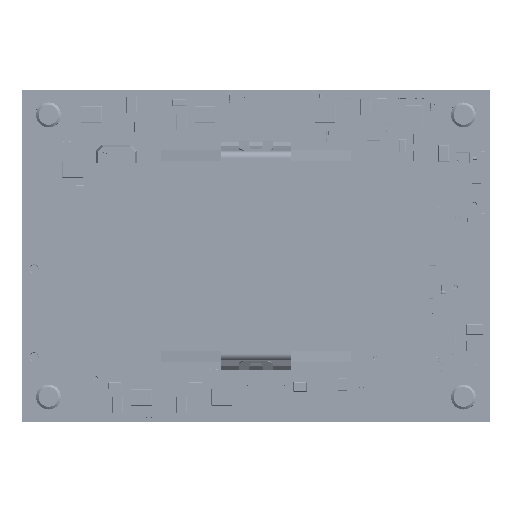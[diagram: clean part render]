
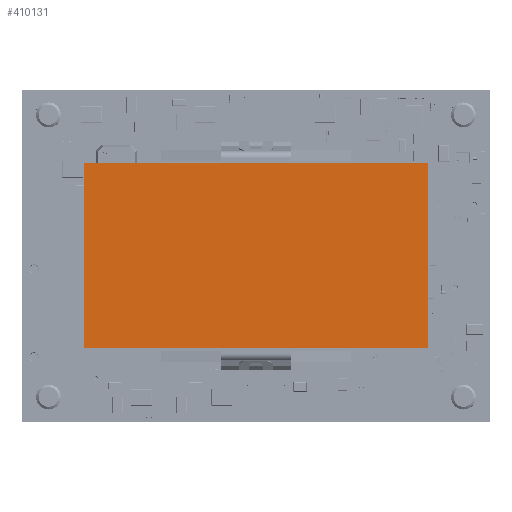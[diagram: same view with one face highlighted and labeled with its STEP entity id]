
A CAD part, top view. The second image highlights one B-rep face of the part: STEP entity #410131.
In plain terms, the highlighted planar face has unit normal (0, 0, 1) as drawn and (0, 1, 0) by its records, which use the part's own axes.
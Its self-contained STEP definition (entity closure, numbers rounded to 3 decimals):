
#408438 = VERTEX_POINT('',#408439);
#408439 = CARTESIAN_POINT('',(20.75,20.5,11.125));
#408445 = EDGE_CURVE('',#408438,#408446,#408448,.T.);
#408446 = VERTEX_POINT('',#408447);
#408447 = CARTESIAN_POINT('',(-20.75,20.5,11.125));
#408448 = LINE('',#408449,#408450);
#408449 = CARTESIAN_POINT('',(20.75,20.5,11.125));
#408450 = VECTOR('',#408451,1.);
#408451 = DIRECTION('',(-1.,0.,0.));
#410107 = VERTEX_POINT('',#410108);
#410108 = CARTESIAN_POINT('',(20.75,20.5,-11.125));
#410114 = EDGE_CURVE('',#408438,#410107,#410115,.T.);
#410115 = LINE('',#410116,#410117);
#410116 = CARTESIAN_POINT('',(20.75,20.5,11.125));
#410117 = VECTOR('',#410118,1.);
#410118 = DIRECTION('',(-0.,-0.,-1.));
#410131 = ADVANCED_FACE('',(#410132),#410150,.F.);
#410132 = FACE_BOUND('',#410133,.T.);
#410133 = EDGE_LOOP('',(#410134,#410142,#410148,#410149));
#410134 = ORIENTED_EDGE('',*,*,#410135,.T.);
#410135 = EDGE_CURVE('',#410107,#410136,#410138,.T.);
#410136 = VERTEX_POINT('',#410137);
#410137 = CARTESIAN_POINT('',(-20.75,20.5,-11.125));
#410138 = LINE('',#410139,#410140);
#410139 = CARTESIAN_POINT('',(20.75,20.5,-11.125));
#410140 = VECTOR('',#410141,1.);
#410141 = DIRECTION('',(-1.,0.,0.));
#410142 = ORIENTED_EDGE('',*,*,#410143,.F.);
#410143 = EDGE_CURVE('',#408446,#410136,#410144,.T.);
#410144 = LINE('',#410145,#410146);
#410145 = CARTESIAN_POINT('',(-20.75,20.5,11.125));
#410146 = VECTOR('',#410147,1.);
#410147 = DIRECTION('',(-0.,-0.,-1.));
#410148 = ORIENTED_EDGE('',*,*,#408445,.F.);
#410149 = ORIENTED_EDGE('',*,*,#410114,.T.);
#410150 = PLANE('',#410151);
#410151 = AXIS2_PLACEMENT_3D('',#410152,#410153,#410154);
#410152 = CARTESIAN_POINT('',(20.75,20.5,11.125));
#410153 = DIRECTION('',(0.,-1.,0.));
#410154 = DIRECTION('',(0.,-0.,-1.));
